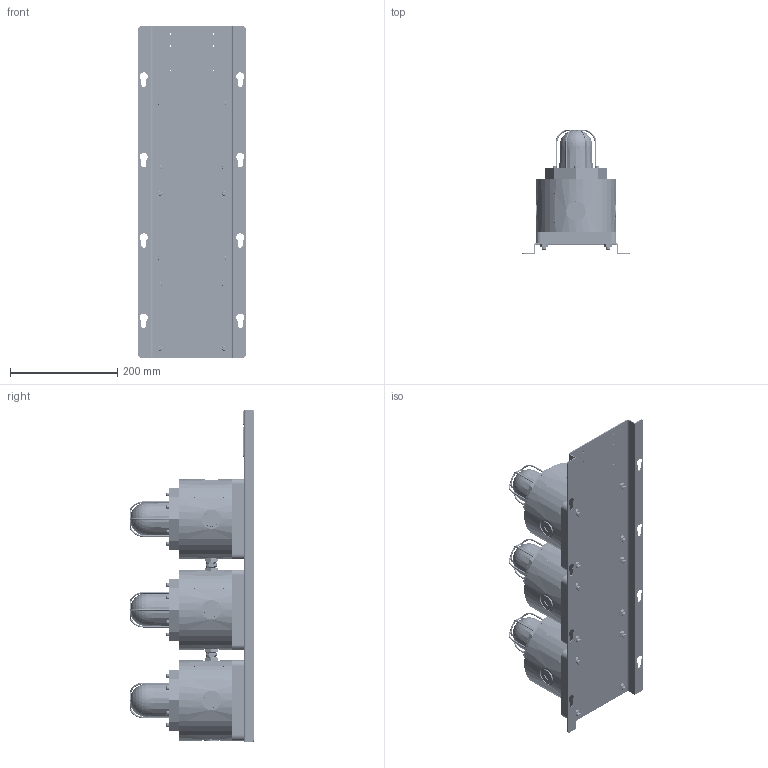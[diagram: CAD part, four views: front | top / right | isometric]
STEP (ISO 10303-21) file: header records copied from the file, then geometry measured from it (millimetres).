
FILE_DESCRIPTION((''),'2;1');
FILE_NAME('0-SL150-TYPE3_ASM','2015-12-21T',('Administrator'),(''),'PRO/ENGINEER BY PARAMETRIC TECHNOLOGY CORPORATION, 2008090','PRO/ENGINEER BY PARAMETRIC TECHNOLOGY CORPORATION, 2008090','');
FILE_SCHEMA(('CONFIG_CONTROL_DESIGN'));
Length unit declared in the file: millimetre
Products named in the file (26): 50020210263; 55060250101; 55060250102; 50060210104; 50060210201; 55060170103; 55060250108; 50060120207; TERMINAL-BASE-50000000405; TERMIAL-BASE_ASM; 50060150601; 50050280237; 55060110205; 50050110216; M4-10; M8X25; M8-NUT; 0-BC150_ASM; 55020110203; LINE-9; 50020110206-M20; 50020110207; 0-CT20_ASM; 55020210228; 50020110229; 0-SL150-TYPE3_ASM
Assembly tree (48 placements, depth 4):
  0-SL150-TYPE3_ASM
    50020210263
    0-BC150_ASM  x3
      55060250101
      55060250102
      50060210104
      50060210201
      55060170103
      55060250108
      TERMIAL-BASE_ASM
        50060120207
        TERMINAL-BASE-50000000405
      50060150601
      50050280237
      55060110205
      50050110216
      M4-10
      M8X25
      M8-NUT
    0-CT20_ASM  x2
      55020110203
      LINE-9
      50020110206-M20
      50020110207
    55020210228
    55060110205
    50020110229
Bounding box: 200 x 232.25 x 619 mm (x, y, z)
Volume: 5482556.6 mm3; surface area: 1454598.9 mm2
Topology: 128 solids, 308 shells, 9918 faces, 25849 edges, 16626 vertices
Faces by surface type: plane 5591, cylinder 2167, cone 794, bspline 700, sphere 432, torus 234
Entity records: 118981 total; most frequent: CARTESIAN_POINT 43995, ORIENTED_EDGE 15836, DIRECTION 14549, EDGE_CURVE 8011, VECTOR 5345, LINE 5345, VERTEX_POINT 5197, AXIS2_PLACEMENT_3D 4602
